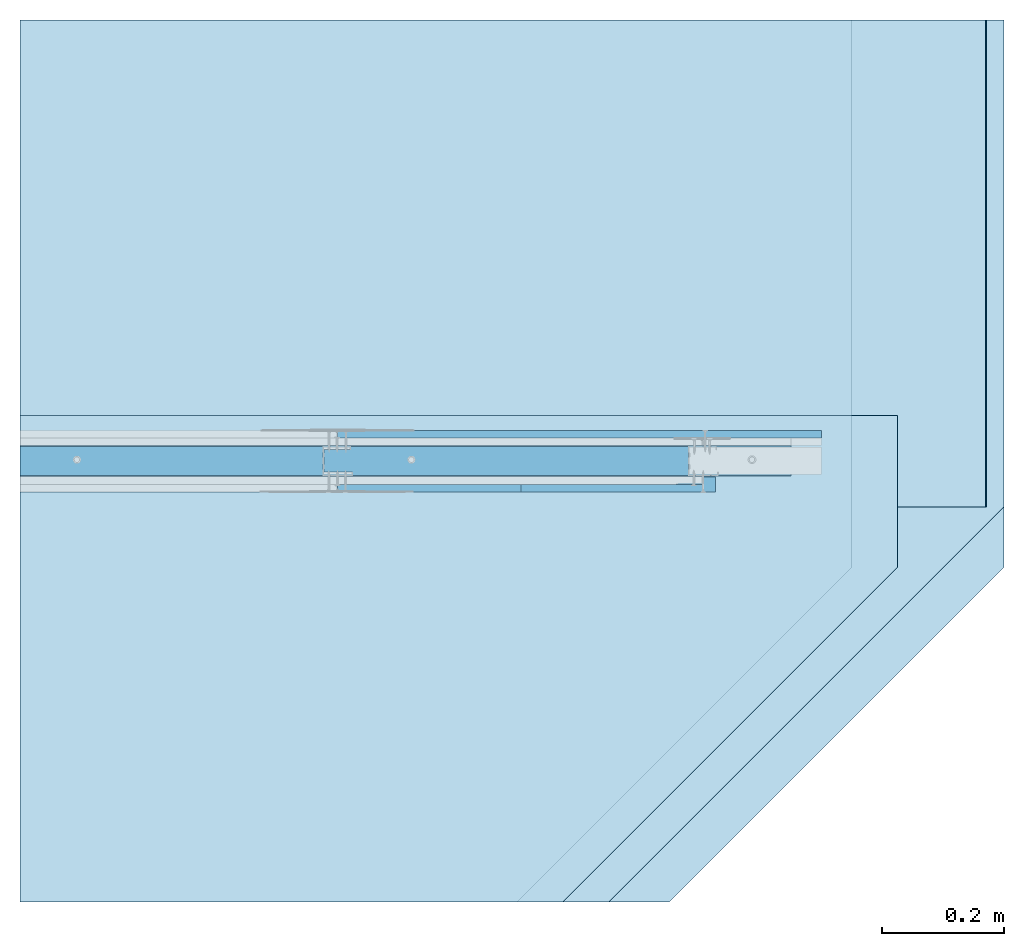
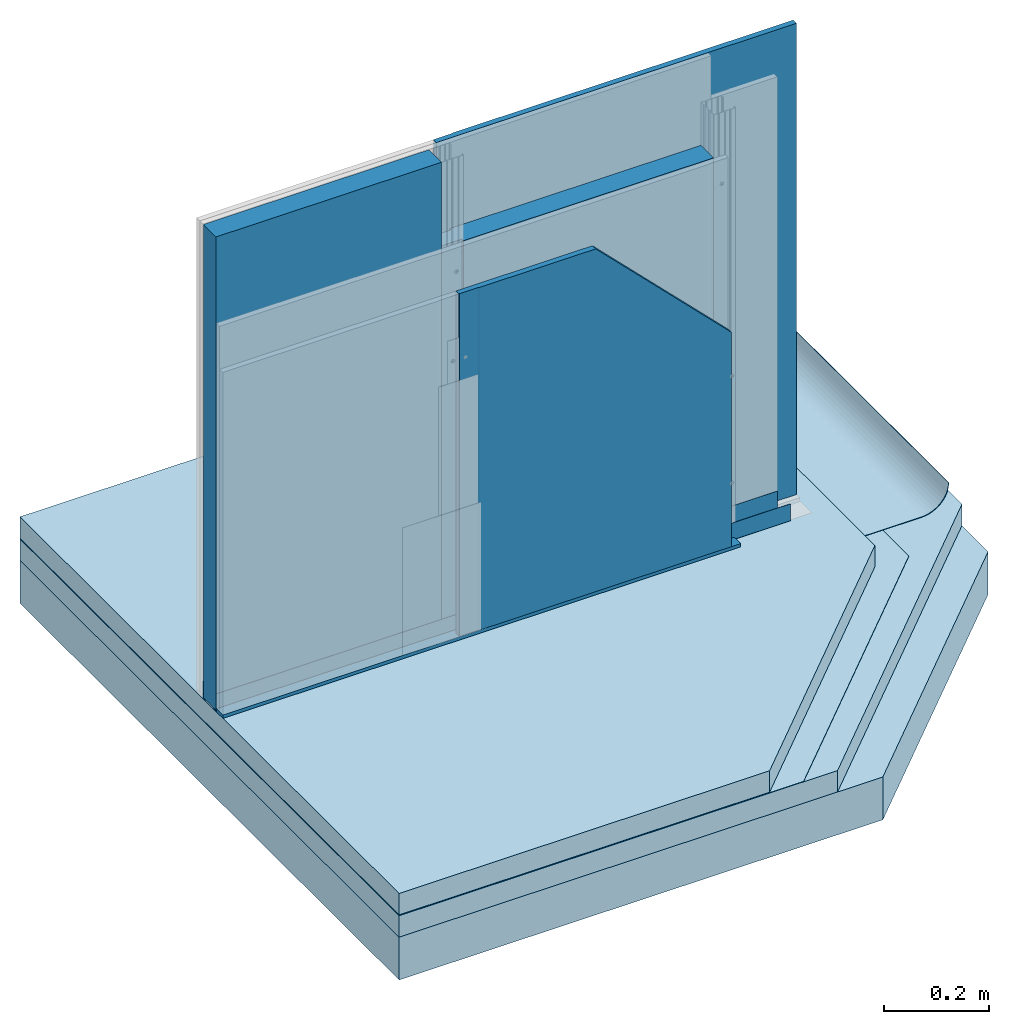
# One storey, part 1 of 36: 6 walls, 5 slabs.
"""IFC2X3 building model written with IfcOpenShell, lengths in millimetres."""

from ifc_helpers import new_model, entity, si_unit, converted_unit, direction, frame, origin, origin_with_axes, place, context, project, spatial, faceted_brep, element, save


model = new_model("IFC2X3")

# Units and contexts
model_context = context("Model", 3, precision=1e-05, world=origin(), true_north=direction((0.0, 1.0, 0.0)))
ifc_project = project(units=[si_unit("LENGTHUNIT", "METRE", prefix="MILLI"), si_unit("AREAUNIT", "SQUARE_METRE"), si_unit("VOLUMEUNIT", "CUBIC_METRE"), converted_unit("PLANEANGLEUNIT", "DEGREE", entity("IfcPlaneAngleMeasure", 0.01745), si_unit("PLANEANGLEUNIT", "RADIAN"), dimensions=[0, 0, 0, 0, 0, 0, 0]), si_unit("SOLIDANGLEUNIT", "STERADIAN"), si_unit("MASSUNIT", "GRAM"), si_unit("TIMEUNIT", "SECOND"), si_unit("THERMODYNAMICTEMPERATUREUNIT", "DEGREE_CELSIUS"), si_unit("LUMINOUSINTENSITYUNIT", "LUMEN")], contexts=[model_context])

# Site, building, storey
site_placement = place(None, origin_with_axes())
site = spatial("IfcSite", under=ifc_project, at=site_placement, Name="Default Site", CompositionType="ELEMENT")
building_placement = place(site_placement, origin_with_axes())
building = spatial("IfcBuilding", under=site, at=building_placement, Name="Default Building", CompositionType="ELEMENT")
storey_placement = place(building_placement, origin_with_axes())
storey = spatial("IfcBuildingStorey", under=building, at=storey_placement, Name="Default Building Storey", CompositionType="ELEMENT", Elevation=0.0)

# Slabs
slab_1_placement = place(storey_placement, frame((3516.951496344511, -1288.142300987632, 6.584025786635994), z_axis=(7.62017609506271e-14, 6.858158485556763e-13, 1.0), x_axis=(1.0, 9.714451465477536e-17, -7.62017609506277e-14)))
element("IfcSlab", 1, at=slab_1_placement, inside=storey, Name="STROP", context=model_context, shape_type="Brep", body=[
    faceted_brep([(226.0891218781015, 3110.283223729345, -4.200000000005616), (-323.9108781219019, 2560.283223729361, -4.200000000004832), (-323.9108781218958, 2560.283223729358, -104.1999999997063), (226.0891218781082, 3110.283223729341, -104.1999999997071), (-1391.926362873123, 2560.283223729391, -104.2000000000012), (-1391.926362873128, 2560.28322372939, -4.200000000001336), (-1391.926362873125, 4010.283223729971, -104.2000000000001), (226.0891218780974, 4010.283223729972, -104.2), (-1391.926362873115, 4010.283223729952, -4.199999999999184), (226.089121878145, 4010.283223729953, -4.200000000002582)], [[[0, 1, 2, 3]], [[4, 2, 1, 5]], [[6, 7, 3, 2, 4]], [[8, 5, 1, 0, 9]], [[0, 3, 7, 9]], [[6, 8, 9, 7]], [[6, 4, 5, 8]]]),
])
slab_2_placement = place(storey_placement, frame((3266.951496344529, -1288.142300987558, 158.5840257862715), z_axis=(7.620176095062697e-14, 6.858158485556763e-13, 1.0), x_axis=(1.0, 9.714451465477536e-17, -7.62017609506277e-14)))
element("IfcSlab", 2, at=slab_2_placement, inside=storey, Name="Wylewka betonowa WEBER", context=model_context, shape_type="Brep", body=[
    faceted_brep([(-1141.926362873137, 4010.263326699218, -54.20000000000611), (226.0891218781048, 4010.263326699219, -54.19999999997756), (226.0891218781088, 4010.263326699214, -104.1999999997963), (-1141.926362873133, 4010.263326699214, -104.1999999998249), (226.0891218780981, 3110.283223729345, -54.2000000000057), (-323.9108781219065, 2560.283223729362, -54.20000000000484), (-323.9108781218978, 2560.283223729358, -104.1999999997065), (226.0891218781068, 3110.283223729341, -104.199999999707), (-1141.926362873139, 2560.283223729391, -104.1999999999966), (-1141.926362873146, 2560.283223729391, -54.19999999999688)], [[[0, 1, 2, 3]], [[4, 5, 6, 7]], [[8, 6, 5, 9]], [[8, 3, 2, 7, 6]], [[4, 1, 0, 9, 5]], [[7, 2, 1, 4]], [[0, 3, 8, 9]]]),
])
slab_3_placement = place(storey_placement, frame((3416.951496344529, -1288.14230098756, 106.5840257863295), z_axis=(7.620176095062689e-14, 6.858158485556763e-13, 1.0), x_axis=(1.0, 9.714451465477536e-17, -7.62017609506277e-14)))
element("IfcSlab", 3, at=slab_3_placement, inside=storey, Name="Wełna mineralna szklana lub skalna ISOVER", context=model_context, shape_type="Brep", body=[
    faceted_brep([(326.0891218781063, 3210.283223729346, -104.1999999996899), (326.0891218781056, 4010.283223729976, -104.1999999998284), (326.0891218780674, 4010.283223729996, -54.20000000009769), (326.0891218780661, 3210.283223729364, -54.19999999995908), (-1291.926362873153, 4010.283223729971, -54.2000000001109), (-1291.92636287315, 4010.283223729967, -104.1999999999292), (-323.9108781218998, 2560.283223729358, -104.1999999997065), (-323.9108781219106, 2560.283223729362, -54.20000000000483), (-1291.926362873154, 2560.283223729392, -104.2000000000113), (-1291.926362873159, 2560.283223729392, -54.20000000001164)], [[[0, 1, 2, 3]], [[4, 2, 1, 5]], [[6, 0, 3, 7]], [[8, 6, 7, 9]], [[5, 1, 0, 6, 8]], [[7, 3, 2, 4, 9]], [[4, 5, 8, 9]]]),
])
slab_4_placement = place(storey_placement, frame((3714.040618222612, 1821.630974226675, 53.38402578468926), z_axis=(0.0, 0.0, 1.0), x_axis=(-3.885780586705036e-16, 1.0, 0.0)))
element("IfcSlab", 4, at=slab_4_placement, inside=storey, Name="Folia budowlana PE ISOVER Stopair®", context=model_context, shape_type="Brep", body=[
    faceted_brep([(99.99999999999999, 60.9999999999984, 0.9999999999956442), (900.4900514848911, 60.99999999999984, 0.9999999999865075), (900.4900514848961, 1589.015484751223, 0.9999999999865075), (100.0000000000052, 1589.015484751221, 0.9999999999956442), (100.0000000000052, 1589.015484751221, -4.354028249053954e-12), (900.4900514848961, 1589.015484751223, -1.349071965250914e-11), (99.99999999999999, 52.16842846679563, 0.5133083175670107), (99.99999999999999, 59.99999999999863, -4.354028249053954e-12), (900.4900514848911, 60.00000000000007, -1.349071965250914e-11), (900.4900514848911, 52.16842846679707, 0.513308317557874), (99.99999999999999, 44.4708572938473, 2.044450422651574), (900.4900514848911, 44.47085729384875, 2.044450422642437), (99.99999999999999, 37.03899405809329, 4.567228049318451), (900.4900514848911, 37.03899405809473, 4.567228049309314), (99.99999999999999, 29.99999999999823, 8.038475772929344), (900.4900514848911, 29.99999999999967, 8.038475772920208), (99.99999999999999, 23.4743142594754, 12.39879958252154), (900.4900514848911, 23.47431425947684, 12.3987995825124), (99.99999999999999, 17.57359312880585, 17.57359312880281), (900.4900514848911, 17.57359312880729, 17.57359312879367), (99.99999999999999, 12.39879958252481, 23.4743142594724), (900.4900514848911, 12.39879958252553, 23.47431425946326), (99.99999999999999, 8.038475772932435, 29.99999999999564), (900.4900514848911, 8.038475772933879, 29.9999999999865), (100.0000000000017, 4.567228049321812, 37.03899405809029), (900.4900514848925, 4.567228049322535, 37.03899405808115), (100.0000000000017, 2.044450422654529, 44.47085729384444), (900.4900514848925, 2.044450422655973, 44.4708572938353), (100.0000000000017, 0.5133083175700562, 52.16842846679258), (900.4900514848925, 0.5133083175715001, 52.16842846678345), (100.0000000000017, -1.443822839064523e-12, 59.99999999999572), (900.4900514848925, 0.0, 59.99999999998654), (100.0000000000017, 1.065543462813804, 59.99999999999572), (900.4900514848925, 1.065543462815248, 59.99999999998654), (100.0000000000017, 1.513308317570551, 53.16842846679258), (900.4900514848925, 1.513308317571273, 53.16842846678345), (100.0000000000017, 3.044450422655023, 45.47085729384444), (900.4900514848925, 3.044450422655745, 45.4708572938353), (100.0000000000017, 5.567228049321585, 38.03899405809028), (900.4900514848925, 5.567228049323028, 38.03899405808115), (99.99999999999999, 9.038475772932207, 30.99999999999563), (900.4900514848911, 9.038475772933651, 30.9999999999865), (99.99999999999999, 13.39879958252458, 24.47431425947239), (900.4900514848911, 13.39879958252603, 24.47431425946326), (99.99999999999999, 18.57359312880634, 18.5735931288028), (900.4900514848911, 18.57359312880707, 18.57359312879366), (99.99999999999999, 24.47431425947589, 13.39879958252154), (900.4900514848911, 24.47431425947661, 13.3987995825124), (99.99999999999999, 30.99999999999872, 9.038475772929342), (900.4900514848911, 31.00000000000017, 9.038475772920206), (99.99999999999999, 38.03899405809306, 5.567228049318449), (900.4900514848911, 38.0389940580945, 5.567228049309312), (99.99999999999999, 45.47085729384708, 3.044450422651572), (900.4900514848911, 45.47085729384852, 3.044450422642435), (99.99999999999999, 53.1684284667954, 1.513308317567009), (900.4900514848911, 53.16842846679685, 1.513308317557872)], [[[0, 1, 2, 3]], [[4, 3, 2, 5]], [[6, 7, 8, 9]], [[10, 6, 9, 11]], [[12, 10, 11, 13]], [[14, 12, 13, 15]], [[16, 14, 15, 17]], [[18, 16, 17, 19]], [[20, 18, 19, 21]], [[22, 20, 21, 23]], [[24, 22, 23, 25]], [[26, 24, 25, 27]], [[28, 26, 27, 29]], [[30, 28, 29, 31]], [[32, 30, 31, 33]], [[34, 32, 33, 35]], [[36, 34, 35, 37]], [[38, 36, 37, 39]], [[40, 38, 39, 41]], [[42, 40, 41, 43]], [[44, 42, 43, 45]], [[46, 44, 45, 47]], [[48, 46, 47, 49]], [[50, 48, 49, 51]], [[52, 50, 51, 53]], [[54, 52, 53, 55]], [[0, 54, 55, 1]], [[7, 4, 5, 8]], [[8, 5, 2, 1, 55, 53, 51, 49, 47, 45, 43, 41, 39, 37, 35, 33, 31, 29, 27, 25, 23, 21, 19, 17, 15, 13, 11, 9]], [[4, 7, 6, 10, 12, 14, 16, 18, 20, 22, 24, 26, 28, 30, 32, 34, 36, 38, 40, 42, 44, 46, 48, 50, 52, 54, 0, 3]]]),
])
slab_5_placement = place(storey_placement, frame((3325.296962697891, 1171.140922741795, 52.38402578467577), z_axis=(0.0, 0.0, 1.0), x_axis=(-3.885780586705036e-16, 1.0, 0.0)))
element("IfcSlab", 5, at=slab_5_placement, inside=storey, Name="Folia budowlana PE ISOVER Stopair®", context=model_context, shape_type="Brep", body=[
    faceted_brep([(650.980102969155, -242.7237584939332, 0.99999999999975), (101.0000000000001, 307.2563444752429, 1.000000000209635), (101.0000000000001, 307.2563444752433, 2.098731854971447e-10), (650.980102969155, -242.7237584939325, 0.0), (101.0000000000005, 1200.271829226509, 0.9999999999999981), (900.4900514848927, -242.7237584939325, 0.9999999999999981), (900.4900514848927, 1200.271829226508, 0.9999999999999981), (101.0000000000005, 1200.271829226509, 0.0), (900.4900514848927, -242.7237584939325, 0.0), (900.4900514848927, 1200.271829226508, 0.0)], [[[0, 1, 2, 3]], [[4, 1, 0, 5, 6]], [[7, 2, 1, 4]], [[8, 3, 2, 7, 9]], [[5, 8, 9, 6]], [[4, 6, 9, 7]], [[0, 3, 8, 5]]]),
])

# Walls
wall_1_placement = place(storey_placement, frame((2647.242430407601, 1958.680077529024, 1161.999999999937), z_axis=(0.0, 0.0, 1.0), x_axis=(1.0, 0.0, 0.0)))
element("IfcWall", 6, at=wall_1_placement, inside=storey, Name="Płyta gipsowo-kartonowa RIGIPS PRO (4PRO™)", context=model_context, shape_type="Brep", body=[
    faceted_brep([(601.187218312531, -12.49999999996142, -550.0000000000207), (301.1872183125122, -12.49999999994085, -250.0000000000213), (301.1872183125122, 3.97051280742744e-11, -250.0000000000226), (601.1872183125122, 5.919673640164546e-11, -550.000000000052), (601.1872183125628, -12.49999999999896, -1050.001581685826), (44.99999999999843, -12.50000000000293, -1050.001581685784), (44.99999999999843, -12.50000000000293, -249.9999999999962), (601.187218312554, 2.526689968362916e-12, -1050.001581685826), (285.9232783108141, 4.475850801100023e-11, -250.0000000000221), (40.99999999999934, -11.50000000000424, -249.9999999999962), (0.9999999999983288, -11.5000000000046, -249.9999999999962), (0.7411809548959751, -11.46592582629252, -249.9999999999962), (0.4999999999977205, -11.3660254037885, -249.9999999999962), (0.29289321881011, -11.20710678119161, -249.9999999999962), (0.1339745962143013, -11.00000000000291, -249.9999999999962), (0.03407417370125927, -10.7588190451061, -249.9999999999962), (-3.97051280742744e-12, -10.50000000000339, -249.9999999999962), (0.0, 0.0, -249.9999999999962), (40.99999999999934, -11.50000000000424, -1050.001581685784), (0.9999999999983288, -11.5000000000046, -1050.001581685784), (0.7411809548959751, -11.46592582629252, -1050.001581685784), (0.4999999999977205, -11.3660254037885, -1050.001581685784), (0.29289321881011, -11.20710678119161, -1050.001581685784), (0.1339745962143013, -11.00000000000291, -1050.001581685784), (0.03407417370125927, -10.7588190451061, -1050.001581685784), (-3.97051280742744e-12, -10.50000000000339, -1050.001581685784), (0.0, 0.0, -1050.001581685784)], [[[0, 1, 2, 3]], [[0, 4, 5, 6, 1]], [[3, 7, 4, 0]], [[8, 2, 1, 6, 9, 10, 11, 12, 13, 14, 15, 16, 17]], [[2, 8, 3]], [[9, 6, 5, 18]], [[10, 9, 18, 19]], [[11, 10, 19, 20]], [[12, 11, 20, 21]], [[13, 12, 21, 22]], [[14, 13, 22, 23]], [[15, 14, 23, 24]], [[16, 15, 24, 25]], [[17, 16, 25, 26]], [[26, 7, 3, 8, 17]], [[5, 4, 7, 26, 25, 24, 23, 22, 21, 20, 19, 18]]]),
])
wall_2_placement = place(storey_placement, frame((2647.429648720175, 2034.640922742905, 1161.999999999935), z_axis=(0.0, 0.0, 1.0), x_axis=(1.0, 0.0, 0.0)))
element("IfcWall", 7, at=wall_2_placement, inside=storey, Name="Płyta gipsowo-kartonowa RIGIPS PRO (4PRO™)", context=model_context, shape_type="Brep", body=[
    faceted_brep([(795.6109695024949, 12.49999999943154, 49.99999999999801), (795.6109695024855, -5.40711653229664e-10, 49.99999999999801), (795.6109695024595, -5.371020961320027e-10, -1050.001581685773), (795.6109695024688, 12.49999999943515, -1050.001581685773), (44.99999999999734, 12.50000000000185, 50.00000000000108), (40.99999999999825, 11.50000000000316, 50.00000000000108), (0.9999999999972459, 11.50000000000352, 50.00000000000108), (0.7411809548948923, 11.46592582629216, 50.00000000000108), (0.4999999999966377, 11.36602540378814, 50.00000000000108), (0.2928932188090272, 11.20710678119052, 50.00000000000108), (0.1339745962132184, 11.00000000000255, 50.00000000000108), (0.0340741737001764, 10.75881904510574, 50.00000000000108), (-3.248601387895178e-12, 10.50000000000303, 50.00000000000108), (-1.082867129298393e-12, -3.609557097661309e-13, 50.00000000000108), (44.99999999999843, 12.50000000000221, -1050.001581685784), (40.99999999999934, 11.50000000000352, -1050.001581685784), (0.9999999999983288, 11.50000000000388, -1050.001581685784), (0.7411809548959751, 11.46592582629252, -1050.001581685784), (0.4999999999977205, 11.3660254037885, -1050.001581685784), (0.29289321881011, 11.20710678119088, -1050.001581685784), (0.1339745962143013, 11.00000000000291, -1050.001581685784), (0.03407417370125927, 10.7588190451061, -1050.001581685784), (-2.165734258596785e-12, 10.50000000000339, -1050.001581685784), (0.0, 0.0, -1050.001581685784)], [[[0, 1, 2, 3]], [[0, 4, 5, 6, 7, 8, 9, 10, 11, 12, 13, 1]], [[3, 14, 4, 0]], [[5, 4, 14, 15]], [[6, 5, 15, 16]], [[7, 6, 16, 17]], [[8, 7, 17, 18]], [[9, 8, 18, 19]], [[10, 9, 19, 20]], [[11, 10, 20, 21]], [[12, 11, 21, 22]], [[13, 12, 22, 23]], [[2, 1, 13, 23]], [[14, 3, 2, 23, 22, 21, 20, 19, 18, 17, 16, 15]]]),
])
wall_3_placement = place(storey_placement, frame((2786.490947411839, 5452.424146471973, 110.8006114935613), z_axis=(0.0, 0.0, 1.0), x_axis=(1.0, 0.0, 0.0)))
element("IfcWall", 8, at=wall_3_placement, inside=storey, Name="Wełna mineralna szklana lub skalna ISOVER", context=model_context, shape_type="Brep", body=[
    faceted_brep([(-161.2958819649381, -3473.633223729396, -3.060216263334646), (-161.2958819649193, -3473.633223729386, 901.1993885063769), (-114.6214102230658, -3473.633223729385, 901.1993885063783), (-114.6214102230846, -3473.633223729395, -3.060216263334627), (-114.6214102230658, -3479.633223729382, 901.1993885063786), (-114.6214102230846, -3479.633223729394, -3.060216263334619), (-161.2958819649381, -3436.833223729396, -3.060216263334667), (-161.2958819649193, -3436.833223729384, 901.1993885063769), (-117.6214102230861, -3436.833223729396, -3.060216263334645), (-117.6214102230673, -3436.833223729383, 901.199388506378), (-117.6214102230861, -3431.283223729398, -3.060216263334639), (437.5658080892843, -3431.283223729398, -3.060216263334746), (437.5658080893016, -3431.283223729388, 901.1993885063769), (-117.6214102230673, -3431.283223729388, 901.1993885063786), (437.5658080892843, -3479.633223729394, -3.060216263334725), (437.5658080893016, -3479.633223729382, 901.1993885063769)], [[[0, 1, 2, 3]], [[3, 2, 4, 5]], [[1, 0, 6, 7]], [[7, 6, 8, 9]], [[10, 11, 12, 13]], [[9, 8, 10, 13]], [[3, 5, 14, 11, 10, 8, 6, 0]], [[4, 15, 14, 5]], [[15, 4, 2, 1, 7, 9, 13, 12]], [[14, 15, 12, 11]]]),
])
wall_4_placement = place(storey_placement, frame((3200.681710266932, 5452.424146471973, 110.3903952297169), z_axis=(6.446348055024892e-14, -6.858158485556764e-13, 1.0), x_axis=(1.0, -1.148337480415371e-16, -9.007748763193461e-14)))
element("IfcWall", 9, at=wall_4_placement, inside=storey, Name="Profil RIGIPS UW50 ULTRASTIL®", context=model_context, shape_type="Brep", body=[
    faceted_brep([(-938.2578181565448, -3470.476261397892, -4.901701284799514), (-938.2578181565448, -3470.287116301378, -4.783410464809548), (-938.2578181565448, -3470.128902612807, -4.626130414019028), (-1075.656576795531, -3470.128902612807, -4.626130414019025), (-1075.656576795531, -3470.476261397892, -4.901701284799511), (-938.2578181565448, -3470.063927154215, -4.535249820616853), (-938.2578181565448, -3470.009494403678, -4.437688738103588), (-1075.656576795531, -3470.009494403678, -4.437688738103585), (-938.2578181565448, -3440.279331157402, -4.783410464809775), (-938.2578181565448, -3440.090186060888, -4.901701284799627), (-938.2578181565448, -3439.87952304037, -4.97511570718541), (-1075.656576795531, -3439.87952304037, -4.975115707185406), (-1075.656576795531, -3440.279331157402, -4.783410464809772), (-938.2578181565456, -3440.819375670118, -2.866589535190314), (-938.2578181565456, -3441.008520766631, -2.748298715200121), (-938.2578181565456, -3441.219183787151, -2.674884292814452), (-1075.656576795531, -3441.219183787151, -2.67488429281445), (-1075.656576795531, -3440.819375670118, -2.866589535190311), (-938.2578181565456, -3469.55792669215, -2.74829871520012), (-938.2578181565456, -3469.747071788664, -2.866589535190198), (-938.2578181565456, -3469.905285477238, -3.023869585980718), (-1075.656576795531, -3469.905285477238, -3.023869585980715), (-1075.656576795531, -3469.55792669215, -2.748298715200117), (-1075.656576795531, -3479.733223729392, 35.00000000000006), (-1075.656576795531, -3480.283223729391, 35.00000000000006), (-1075.656576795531, -3480.283223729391, -4.199999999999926), (-1075.656576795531, -3480.273374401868, -4.325147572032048), (-1075.656576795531, -3480.244068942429, -4.447213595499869), (-1075.656576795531, -3480.196028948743, -4.563192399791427), (-1075.656576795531, -3480.130437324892, -4.670228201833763), (-1075.656576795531, -3480.048909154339, -4.765685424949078), (-1075.656576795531, -3479.953451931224, -4.847213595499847), (-1075.656576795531, -3479.846416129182, -4.912805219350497), (-1075.656576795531, -3479.73043732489, -4.960845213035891), (-1075.656576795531, -3479.608371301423, -4.99015067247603), (-1075.656576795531, -3479.483223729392, -4.999999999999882), (-1075.656576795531, -3470.908620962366, -4.999999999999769), (-1075.656576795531, -3470.686924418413, -4.975115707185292), (-1075.656576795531, -3469.680725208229, -3.762311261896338), (-1075.656576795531, -3469.561316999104, -3.573869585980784), (-1075.656576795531, -3469.403103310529, -3.416589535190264), (-1075.656576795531, -3469.213958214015, -3.298298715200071), (-1075.656576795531, -3469.003295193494, -3.224884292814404), (-1075.656576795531, -3468.781598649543, -3.199999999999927), (-1075.656576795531, -3441.78484880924, -3.199999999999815), (-1075.656576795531, -3441.563152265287, -3.224884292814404), (-1075.656576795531, -3441.352489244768, -3.298298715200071), (-1075.656576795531, -3441.163344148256, -3.416589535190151), (-1075.656576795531, -3441.005130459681, -3.573869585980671), (-1075.656576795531, -3440.885722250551, -3.762311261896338), (-1075.656576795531, -3440.556953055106, -4.437688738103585), (-1075.656576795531, -3440.437544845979, -4.626130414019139), (-1075.656576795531, -3439.657826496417, -4.999999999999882), (-1075.656576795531, -3431.083223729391, -4.999999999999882), (-1075.656576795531, -3430.95807615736, -4.990150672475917), (-1075.656576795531, -3430.83601013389, -4.960845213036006), (-1075.656576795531, -3430.720031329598, -4.912805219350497), (-1075.656576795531, -3430.612995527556, -4.847213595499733), (-1075.656576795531, -3430.51753830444, -4.765685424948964), (-1075.656576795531, -3430.436010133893, -4.670228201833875), (-1075.656576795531, -3430.370418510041, -4.563192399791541), (-1075.656576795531, -3430.322378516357, -4.447213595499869), (-1075.656576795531, -3430.293073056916, -4.325147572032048), (-1075.656576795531, -3430.283223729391, -4.199999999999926), (-1075.656576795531, -3430.283223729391, 35.00000000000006), (-1075.656576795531, -3430.833223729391, 35.00000000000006), (-1075.656576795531, -3430.833223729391, -4.199999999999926), (-1075.656576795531, -3430.836301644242, -4.23910861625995), (-1075.656576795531, -3430.845459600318, -4.27725424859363), (-1075.656576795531, -3430.860472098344, -4.313497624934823), (-1075.656576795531, -3430.880969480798, -4.346946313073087), (-1075.656576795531, -3430.906447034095, -4.376776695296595), (-1075.656576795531, -3430.936277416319, -4.402254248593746), (-1075.656576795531, -3430.969726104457, -4.422751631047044), (-1075.656576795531, -3431.005969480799, -4.437764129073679), (-1075.656576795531, -3431.044115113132, -4.44692208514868), (-1075.656576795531, -3431.083223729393, -4.449999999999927), (-1075.656576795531, -3439.313858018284, -4.45000000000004), (-1075.656576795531, -3439.535554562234, -4.425115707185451), (-1075.656576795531, -3439.746217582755, -4.351701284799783), (-1075.656576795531, -3439.935362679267, -4.233410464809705), (-1075.656576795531, -3440.093576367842, -4.076130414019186), (-1075.656576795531, -3440.212984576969, -3.887688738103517), (-1075.656576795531, -3440.541753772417, -3.212311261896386), (-1075.656576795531, -3440.661161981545, -3.02386958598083), (-1075.656576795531, -3441.440880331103, -2.649999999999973), (-1075.656576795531, -3469.125567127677, -2.649999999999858), (-1075.656576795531, -3469.347263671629, -2.674884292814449), (-1075.656576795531, -3470.024693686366, -3.212311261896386), (-1075.656576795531, -3470.353462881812, -3.887688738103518), (-1075.656576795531, -3470.472871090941, -4.076130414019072), (-1075.656576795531, -3470.631084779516, -4.233410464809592), (-1075.656576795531, -3470.820229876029, -4.351701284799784), (-1075.656576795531, -3471.030892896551, -4.425115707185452), (-1075.656576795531, -3471.252589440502, -4.449999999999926), (-1075.656576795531, -3479.483223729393, -4.449999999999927), (-1075.656576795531, -3479.522332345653, -4.446922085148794), (-1075.656576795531, -3479.560477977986, -4.437764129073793), (-1075.656576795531, -3479.596721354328, -4.422751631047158), (-1075.656576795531, -3479.630170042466, -4.402254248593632), (-1075.656576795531, -3479.660000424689, -4.376776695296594), (-1075.656576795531, -3479.685477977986, -4.346946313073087), (-1075.656576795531, -3479.705975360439, -4.313497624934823), (-1075.656576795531, -3479.720987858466, -4.27725424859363), (-1075.656576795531, -3479.730145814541, -4.23910861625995), (-1075.656576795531, -3479.733223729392, -4.199999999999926), (192.3589079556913, -3480.283223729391, -4.200000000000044), (192.3589079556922, -3480.283223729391, 35.0), (192.3589079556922, -3479.733223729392, 35.0), (192.3589079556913, -3479.733223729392, -4.200000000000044), (192.3589079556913, -3479.730145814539, -4.239108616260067), (192.3589079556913, -3479.720987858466, -4.277254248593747), (192.3589079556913, -3479.705975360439, -4.313497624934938), (192.3589079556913, -3479.685477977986, -4.346946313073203), (192.3589079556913, -3479.660000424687, -4.376776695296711), (192.3589079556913, -3479.630170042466, -4.402254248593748), (192.3589079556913, -3479.596721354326, -4.422751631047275), (192.3589079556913, -3479.560477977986, -4.43776412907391), (192.3589079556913, -3479.522332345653, -4.446922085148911), (192.3589079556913, -3479.483223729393, -4.450000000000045), (192.3589079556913, -3471.252589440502, -4.450000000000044), (192.3589079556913, -3471.030892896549, -4.425115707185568), (192.3589079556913, -3470.820229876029, -4.3517012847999), (192.3589079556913, -3470.631084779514, -4.233410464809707), (192.3589079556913, -3470.472871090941, -4.076130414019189), (192.3589079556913, -3470.353462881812, -3.887688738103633), (192.3589079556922, -3470.024693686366, -3.212311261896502), (192.3589079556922, -3469.905285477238, -3.023869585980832), (192.3589079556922, -3469.747071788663, -2.866589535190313), (192.3589079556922, -3469.55792669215, -2.748298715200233), (192.3589079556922, -3469.347263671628, -2.674884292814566), (192.3589079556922, -3469.125567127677, -2.649999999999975), (192.3589079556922, -3441.440880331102, -2.650000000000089), (192.3589079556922, -3441.219183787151, -2.674884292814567), (192.3589079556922, -3441.008520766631, -2.748298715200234), (192.3589079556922, -3440.819375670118, -2.866589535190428), (192.3589079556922, -3440.661161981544, -3.023869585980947), (192.3589079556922, -3440.541753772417, -3.212311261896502), (192.3589079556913, -3440.212984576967, -3.887688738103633), (192.3589079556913, -3440.093576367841, -4.076130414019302), (192.3589079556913, -3439.935362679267, -4.233410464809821), (192.3589079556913, -3439.746217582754, -4.3517012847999), (192.3589079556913, -3439.535554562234, -4.425115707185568), (192.3589079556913, -3439.313858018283, -4.450000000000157), (192.3589079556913, -3431.083223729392, -4.450000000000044), (192.3589079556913, -3431.044115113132, -4.446922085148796), (192.3589079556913, -3431.005969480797, -4.437764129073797), (192.3589079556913, -3430.969726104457, -4.422751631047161), (192.3589079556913, -3430.936277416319, -4.402254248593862), (192.3589079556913, -3430.906447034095, -4.376776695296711), (192.3589079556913, -3430.880969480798, -4.346946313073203), (192.3589079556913, -3430.860472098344, -4.313497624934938), (192.3589079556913, -3430.845459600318, -4.277254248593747), (192.3589079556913, -3430.836301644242, -4.239108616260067), (192.3589079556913, -3430.833223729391, -4.200000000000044), (192.3589079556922, -3430.833223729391, 35.0), (192.3589079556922, -3430.283223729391, 35.0), (192.3589079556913, -3430.283223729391, -4.200000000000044), (192.3589079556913, -3430.293073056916, -4.325147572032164), (192.3589079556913, -3430.322378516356, -4.447213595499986), (192.3589079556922, -3430.370418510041, -4.563192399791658), (192.3589079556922, -3430.436010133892, -4.670228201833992), (192.3589079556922, -3430.51753830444, -4.765685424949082), (192.3589079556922, -3430.612995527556, -4.84721359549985), (192.3589079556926, -3430.720031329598, -4.912805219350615), (192.3589079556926, -3430.83601013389, -4.960845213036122), (192.3589079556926, -3430.958076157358, -4.990150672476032), (192.3589079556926, -3431.083223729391, -4.999999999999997), (192.3589079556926, -3439.657826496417, -4.999999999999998), (192.3589079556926, -3439.879523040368, -4.975115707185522), (192.3589079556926, -3440.090186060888, -4.901701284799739), (192.3589079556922, -3440.279331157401, -4.783410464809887), (192.3589079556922, -3440.437544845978, -4.626130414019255), (192.3589079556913, -3440.556953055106, -4.437688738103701), (192.3589079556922, -3440.88572225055, -3.762311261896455), (192.3589079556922, -3441.005130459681, -3.573869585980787), (192.3589079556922, -3441.163344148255, -3.416589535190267), (192.3589079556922, -3441.352489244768, -3.298298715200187), (192.3589079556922, -3441.563152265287, -3.22488429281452), (192.3589079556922, -3441.78484880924, -3.199999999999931), (192.3589079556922, -3468.781598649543, -3.200000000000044), (192.3589079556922, -3469.003295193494, -3.22488429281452), (192.3589079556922, -3469.213958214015, -3.298298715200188), (192.3589079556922, -3469.403103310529, -3.416589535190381), (192.3589079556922, -3469.561316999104, -3.5738695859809), (192.3589079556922, -3469.680725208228, -3.762311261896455), (192.3589079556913, -3470.009494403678, -4.437688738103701), (192.3589079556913, -3470.063927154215, -4.535249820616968), (192.3589079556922, -3470.128902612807, -4.626130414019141), (192.3589079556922, -3470.287116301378, -4.783410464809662), (192.3589079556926, -3470.476261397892, -4.901701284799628), (192.3589079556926, -3470.686924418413, -4.975115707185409), (192.3589079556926, -3470.908620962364, -4.999999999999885), (192.3589079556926, -3479.483223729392, -4.999999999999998), (192.3589079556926, -3479.608371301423, -4.990150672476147), (192.3589079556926, -3479.730437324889, -4.960845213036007), (192.3589079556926, -3479.846416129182, -4.912805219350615), (192.3589079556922, -3479.953451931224, -4.847213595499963), (192.3589079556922, -3480.048909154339, -4.765685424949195), (192.3589079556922, -3480.130437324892, -4.670228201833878), (192.3589079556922, -3480.196028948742, -4.563192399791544), (192.3589079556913, -3480.244068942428, -4.447213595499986), (192.3589079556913, -3480.273374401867, -4.325147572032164)], [[[0, 1, 2, 3, 4]], [[2, 5, 6, 7, 3]], [[8, 9, 10, 11, 12]], [[13, 14, 15, 16, 17]], [[18, 19, 20, 21, 22]], [[23, 24, 25, 26, 27, 28, 29, 30, 31, 32, 33, 34, 35, 36, 37, 4, 3, 7, 38, 39, 40, 41, 42, 43, 44, 45, 46, 47, 48, 49, 50, 51, 12, 11, 52, 53, 54, 55, 56, 57, 58, 59, 60, 61, 62, 63, 64, 65, 66, 67, 68, 69, 70, 71, 72, 73, 74, 75, 76, 77, 78, 79, 80, 81, 82, 83, 84, 17, 16, 85, 86, 87, 22, 21, 88, 89, 90, 91, 92, 93, 94, 95, 96, 97, 98, 99, 100, 101, 102, 103, 104, 105]], [[106, 107, 108, 109, 110, 111, 112, 113, 114, 115, 116, 117, 118, 119, 120, 121, 122, 123, 124, 125, 126, 127, 128, 129, 130, 131, 132, 133, 134, 135, 136, 137, 138, 139, 140, 141, 142, 143, 144, 145, 146, 147, 148, 149, 150, 151, 152, 153, 154, 155, 156, 157, 158, 159, 160, 161, 162, 163, 164, 165, 166, 167, 168, 169, 170, 171, 172, 173, 174, 175, 176, 177, 178, 179, 180, 181, 182, 183, 184, 185, 186, 187, 188, 189, 190, 191, 192, 193, 194, 195, 196, 197, 198, 199, 200, 201, 202]], [[63, 157, 156, 64]], [[64, 156, 155, 65]], [[65, 155, 154, 66]], [[144, 76, 75, 145]], [[74, 146, 145, 75]], [[73, 147, 146, 74]], [[147, 73, 72, 148]], [[71, 149, 148, 72]], [[149, 71, 70, 150]], [[69, 151, 150, 70]], [[68, 152, 151, 69]], [[152, 68, 67, 153]], [[66, 154, 153, 67]], [[76, 144, 143, 77]], [[81, 139, 138, 82]], [[80, 140, 139, 81]], [[79, 141, 140, 80]], [[143, 142, 78, 77]], [[78, 142, 141, 79]], [[82, 138, 137, 83]], [[15, 133, 132, 85, 16]], [[14, 134, 133, 15]], [[13, 135, 134, 14]], [[84, 136, 135, 13, 17]], [[137, 136, 84, 83]], [[85, 132, 131, 86]], [[20, 127, 126, 88, 21]], [[19, 128, 127, 20]], [[18, 129, 128, 19]], [[87, 130, 129, 18, 22]], [[131, 130, 87, 86]], [[88, 126, 125, 89]], [[93, 121, 120, 94]], [[92, 122, 121, 93]], [[91, 123, 122, 92]], [[125, 124, 90, 89]], [[90, 124, 123, 91]], [[94, 120, 119, 95]], [[109, 105, 104, 110]], [[103, 111, 110, 104]], [[102, 112, 111, 103]], [[112, 102, 101, 113]], [[100, 114, 113, 101]], [[114, 100, 99, 115]], [[98, 116, 115, 99]], [[97, 117, 116, 98]], [[117, 97, 96, 118]], [[95, 119, 118, 96]], [[105, 109, 108, 23]], [[23, 108, 107, 24]], [[24, 107, 106, 25]], [[33, 195, 194, 34]], [[194, 193, 35, 34]], [[32, 196, 195, 33]], [[30, 198, 197, 31]], [[197, 196, 32, 31]], [[28, 200, 199, 29]], [[199, 198, 30, 29]], [[27, 201, 200, 28]], [[25, 106, 202, 26]], [[202, 201, 27, 26]], [[35, 193, 192, 36]], [[5, 2, 188, 187]], [[187, 186, 6, 5]], [[1, 189, 188, 2]], [[0, 190, 189, 1]], [[37, 191, 190, 0, 4]], [[192, 191, 37, 36]], [[6, 186, 185, 38, 7]], [[42, 181, 180, 43]], [[41, 182, 181, 42]], [[40, 183, 182, 41]], [[185, 184, 39, 38]], [[39, 184, 183, 40]], [[43, 180, 179, 44]], [[48, 175, 174, 49]], [[47, 176, 175, 48]], [[46, 177, 176, 47]], [[179, 178, 45, 44]], [[45, 178, 177, 46]], [[49, 174, 173, 50]], [[10, 169, 168, 52, 11]], [[9, 170, 169, 10]], [[8, 171, 170, 9]], [[51, 172, 171, 8, 12]], [[173, 172, 51, 50]], [[52, 168, 167, 53]], [[61, 159, 158, 62]], [[158, 157, 63, 62]], [[60, 160, 159, 61]], [[58, 162, 161, 59]], [[161, 160, 60, 59]], [[56, 164, 163, 57]], [[163, 162, 58, 57]], [[55, 165, 164, 56]], [[53, 167, 166, 54]], [[166, 165, 55, 54]]]),
])
wall_5_placement = place(storey_placement, frame((3268.31475601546, 1946.180077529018, 104.3840257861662), z_axis=(0.0, 0.0, 1.0), x_axis=(1.0, 0.0, 0.0)))
element("IfcWall", 10, at=wall_5_placement, inside=storey, Name="Dedykowana masa szpachlowa Rigips - konstrukcyjna", context=model_context, shape_type="Brep", body=[
    faceted_brep([(0.0, 24.6461696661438, 0.0), (0.0, 0.0, 0.0), (-1143.289622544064, 0.0, 0.0), (-1143.289622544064, 24.6461696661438, 0.0), (0.0, 0.0, 7.614392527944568), (-1143.289622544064, 0.0, 7.614392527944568), (0.0, 24.6461696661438, 7.614392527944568), (-1143.289622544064, 24.6461696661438, 7.614392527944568)], [[[0, 1, 2, 3]], [[1, 4, 5, 2]], [[4, 6, 7, 5]], [[6, 0, 3, 7]], [[7, 3, 2, 5]], [[0, 6, 4, 1]]]),
])
wall_6_placement = place(storey_placement, frame((2172.059826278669, 5452.424146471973, 110.6721379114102), z_axis=(0.0, 0.0, 1.0), x_axis=(1.0, 0.0, 0.0)))
element("IfcWall", 11, at=wall_6_placement, inside=storey, Name="Wełna mineralna szklana lub skalna ISOVER", context=model_context, shape_type="Brep", body=[
    faceted_brep([(-47.03469280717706, -3431.283223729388, 1101.327862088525), (-47.0346928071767, -3479.633223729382, 1101.327862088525), (-47.03469280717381, -3479.633223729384, -2.931742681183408), (-47.03469280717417, -3431.283223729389, -2.931742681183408), (450.8097109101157, -3431.283223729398, -2.931742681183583), (450.8097109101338, -3431.283223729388, 1101.327862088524), (450.8097109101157, -3479.633223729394, -2.931742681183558), (450.8097109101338, -3479.633223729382, 1101.327862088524)], [[[0, 1, 2, 3]], [[3, 4, 5, 0]], [[2, 6, 4, 3]], [[2, 1, 7, 6]], [[0, 5, 7, 1]], [[6, 7, 5, 4]]]),
])

save(model, "model.ifc")
